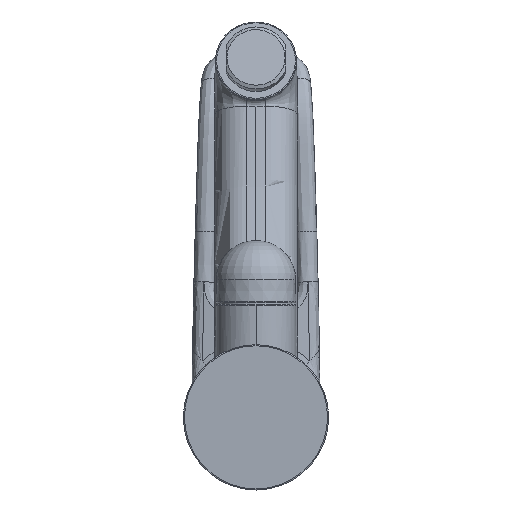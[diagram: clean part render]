
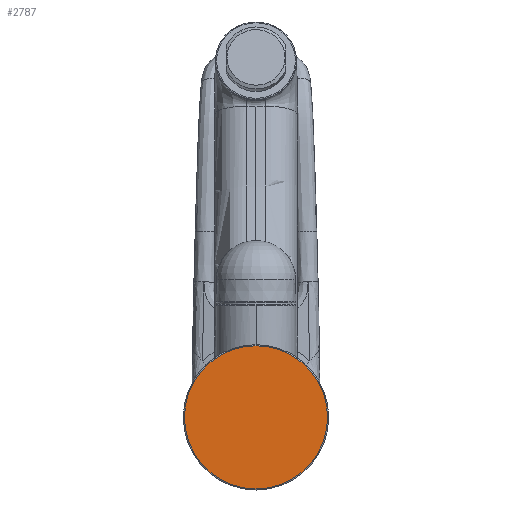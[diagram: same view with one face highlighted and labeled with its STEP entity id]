
A CAD part, front view. The second image highlights one B-rep face of the part: STEP entity #2787.
In plain terms, the highlighted planar face has unit normal (0, -1, 0).
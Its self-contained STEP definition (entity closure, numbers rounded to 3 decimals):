
#22 = CARTESIAN_POINT ( 'NONE',  ( 219.316, 310.466, 344.206 ) ) ;
#278 = ORIENTED_EDGE ( 'NONE', *, *, #12101, .T. ) ;
#973 = AXIS2_PLACEMENT_3D ( 'NONE', #6161, #4934, #1474 ) ;
#1474 = DIRECTION ( 'NONE',  ( 0., 0., 1. ) ) ;
#1992 = CIRCLE ( 'NONE', #10394, 26.461 ) ;
#2232 = CARTESIAN_POINT ( 'NONE',  ( 192.854, 310.466, 344.206 ) ) ;
#2787 = ADVANCED_FACE ( 'NONE', ( #10572 ), #9004, .T. ) ;
#4255 = DIRECTION ( 'NONE',  ( -1., 0., 0. ) ) ;
#4934 = DIRECTION ( 'NONE',  ( 0., -1., 0. ) ) ;
#5219 = CIRCLE ( 'NONE', #6626, 26.461 ) ;
#6161 = CARTESIAN_POINT ( 'NONE',  ( 168.854, 310.466, 344.206 ) ) ;
#6543 = DIRECTION ( 'NONE',  ( 0., -1., 0. ) ) ;
#6626 = AXIS2_PLACEMENT_3D ( 'NONE', #2232, #16361, #4255 ) ;
#9004 = PLANE ( 'NONE',  #973 ) ;
#10344 = VERTEX_POINT ( 'NONE', #22 ) ;
#10394 = AXIS2_PLACEMENT_3D ( 'NONE', #18615, #6543, #20634 ) ;
#10572 = FACE_OUTER_BOUND ( 'NONE', #19862, .T. ) ;
#12101 = EDGE_CURVE ( 'NONE', #15123, #10344, #5219, .T. ) ;
#12584 = ORIENTED_EDGE ( 'NONE', *, *, #23362, .T. ) ;
#15123 = VERTEX_POINT ( 'NONE', #19036 ) ;
#16361 = DIRECTION ( 'NONE',  ( 0., -1., 0. ) ) ;
#18615 = CARTESIAN_POINT ( 'NONE',  ( 192.854, 310.466, 344.206 ) ) ;
#19036 = CARTESIAN_POINT ( 'NONE',  ( 166.393, 310.466, 344.206 ) ) ;
#19862 = EDGE_LOOP ( 'NONE', ( #278, #12584 ) ) ;
#20634 = DIRECTION ( 'NONE',  ( -1., 0., 0. ) ) ;
#23362 = EDGE_CURVE ( 'NONE', #10344, #15123, #1992, .T. ) ;
